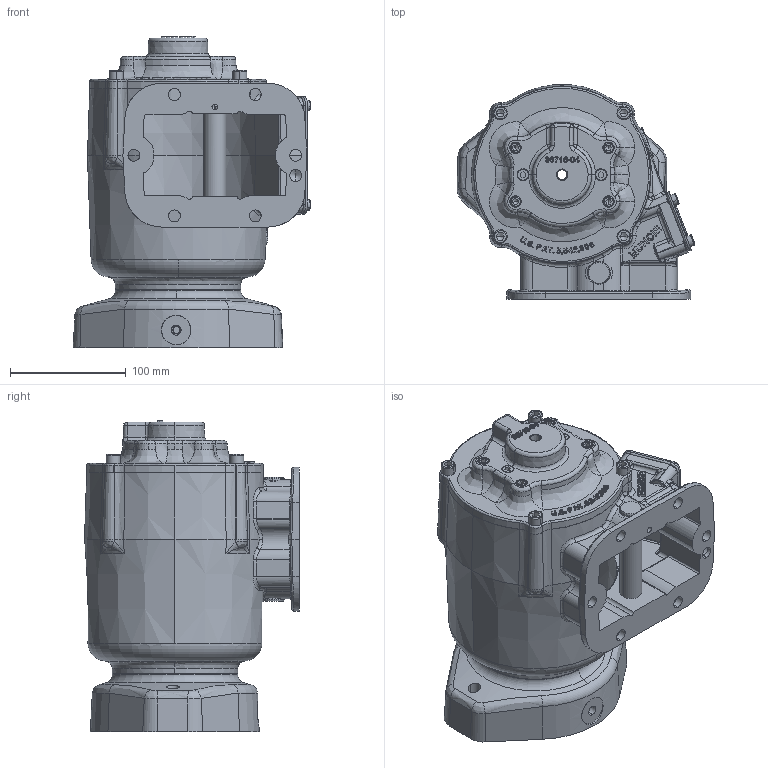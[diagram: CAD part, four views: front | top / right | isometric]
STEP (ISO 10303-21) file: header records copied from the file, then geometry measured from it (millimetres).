
FILE_DESCRIPTION (( 'STEP AP203' ), '1' );
FILE_NAME ('CS6S-A67XX-E1LX.STEP', '2023-04-14T12:52:27', ( '' ), ( '' ), 'SwSTEP 2.0', 'SolidWorks 2021', '' );
FILE_SCHEMA (( 'CONFIG_CONTROL_DESIGN' ));
Length unit declared in the file: millimetre
Products named in the file (17): 15T36717; 19T34717; 16T41119; 19T36082; 27T36173_Free Length; 19T41118; 10T21017; 12T36751; 12T34003; 07T37071; 19T36174; 25T21684; 19T35237; 12T35949; 14T40714; CS6S-A67XX-E1LX; 01T37073
Assembly tree (33 placements, depth 2):
  CS6S-A67XX-E1LX
    01T37073
    16T41119
    19T41118  x4
    15T36717
    12T34003
    19T35237  x4
    10T21017
    12T36751
    07T37071
    12T35949  x2
    27T36173_Free Length  x4
    19T36174  x4
    25T21684  x2
    19T34717  x4
    19T36082
    14T40714
Bounding box: 205.14 x 185.25 x 268.87 mm (x, y, z)
Volume: 1706715.3 mm3; surface area: 431902 mm2
Topology: 33 solids, 33 shells, 2123 faces, 5306 edges, 3232 vertices
Faces by surface type: bspline 703, plane 545, cylinder 459, cone 282, torus 102, sphere 32
Entity records: 116681 total; most frequent: CARTESIAN_POINT 76702, ORIENTED_EDGE 8962, DIRECTION 5931, EDGE_CURVE 4481, VERTEX_POINT 2785, AXIS2_PLACEMENT_3D 2193, EDGE_LOOP 1958, B_SPLINE_CURVE_WITH_KNOTS 1821
